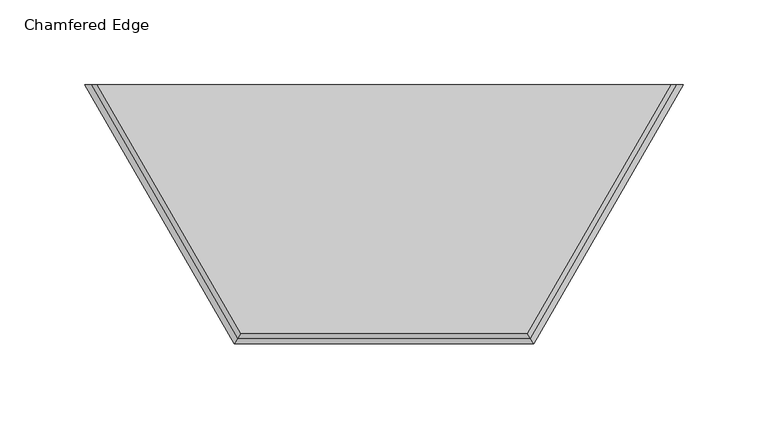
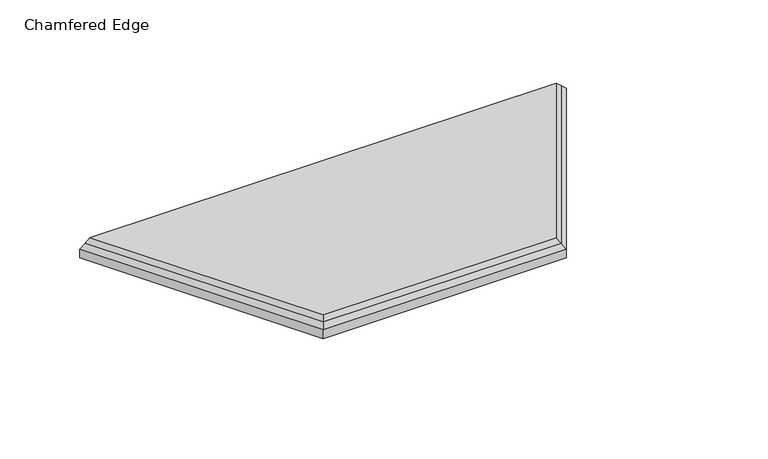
"""IFC4 building model written with IfcOpenShell, lengths in millimetres: proxy geometry, FilzFelt_Hex_Block : Chamfered Edge."""

from ifc_helpers import new_model, si_unit, origin, place, context, project, spatial, faceted_brep, source, transform, mapped, element, save


def chamfered_edge_68122265(model_context):
    return source(origin(), model_context, "Body", "Brep", [
        faceted_brep([(-172.081052, 0.0, 10.0210937), (172.081052, 0.0, 10.0210937), (86.040526, -149.0265625, 10.0210937), (-86.040526, -149.0265625, 10.0210937), (168.6440136, 0.0, 12.9976563), (-168.6440136, 0.0, 12.9976563), (-84.3220068, -146.05, 12.9976563), (84.3220068, -146.05, 12.9976563)], [[[0, 1, 2, 3]], [[4, 5, 6, 7]], [[7, 2, 1, 4]], [[3, 6, 5, 0]], [[6, 3, 2, 7]], [[1, 0, 5, 4]]]),
        faceted_brep([(175.976362, 0.0, 0.0), (87.988181, -152.4, 0.0), (-87.988181, -152.4, 0.0), (-175.976362, 0.0, 0.0), (172.081052, 0.0, 10.0210937), (-172.081052, 0.0, 10.0210937), (-86.040526, -149.0265625, 10.0210937), (86.040526, -149.0265625, 10.0210937), (175.976362, 0.0, 6.6476563), (87.988181, -152.4, 6.6476563), (-87.988181, -152.4, 6.6476562), (-175.976362, 0.0, 6.6476563)], [[[0, 1, 2, 3]], [[4, 5, 6, 7]], [[1, 0, 8, 9]], [[2, 1, 9, 10]], [[3, 2, 10, 11]], [[7, 9, 8, 4]], [[10, 6, 5, 11]], [[6, 10, 9, 7]], [[0, 3, 11, 5, 4, 8]]]),
    ])


if __name__ == "__main__":
    model = new_model("IFC4")
    model_context = context("Model", 3, world=origin())
    ifc_project = project(units=[si_unit("LENGTHUNIT", "METRE", prefix="MILLI")], contexts=[model_context])
    site = spatial("IfcSite", under=ifc_project)
    building = spatial("IfcBuilding", under=site)
    placement = place(None, origin())
    chamfered_edge_shape = chamfered_edge_68122265(model_context)
    element("IfcBuildingElementProxy", 1, Name="FilzFelt_Hex_Block : Chamfered Edge", ObjectType="FilzFelt_Hex_Block : Chamfered Edge", at=placement, inside=building, context=model_context, shape_type="MappedRepresentation", body=[
        mapped(chamfered_edge_shape, transform((0.0, 0.0, 0.0), x_axis=(1.0, 0.0, 0.0), y_axis=(0.0, 1.0, 0.0), z_axis=(0.0, 0.0, 1.0))),
    ])
    save(model, "model.ifc")
